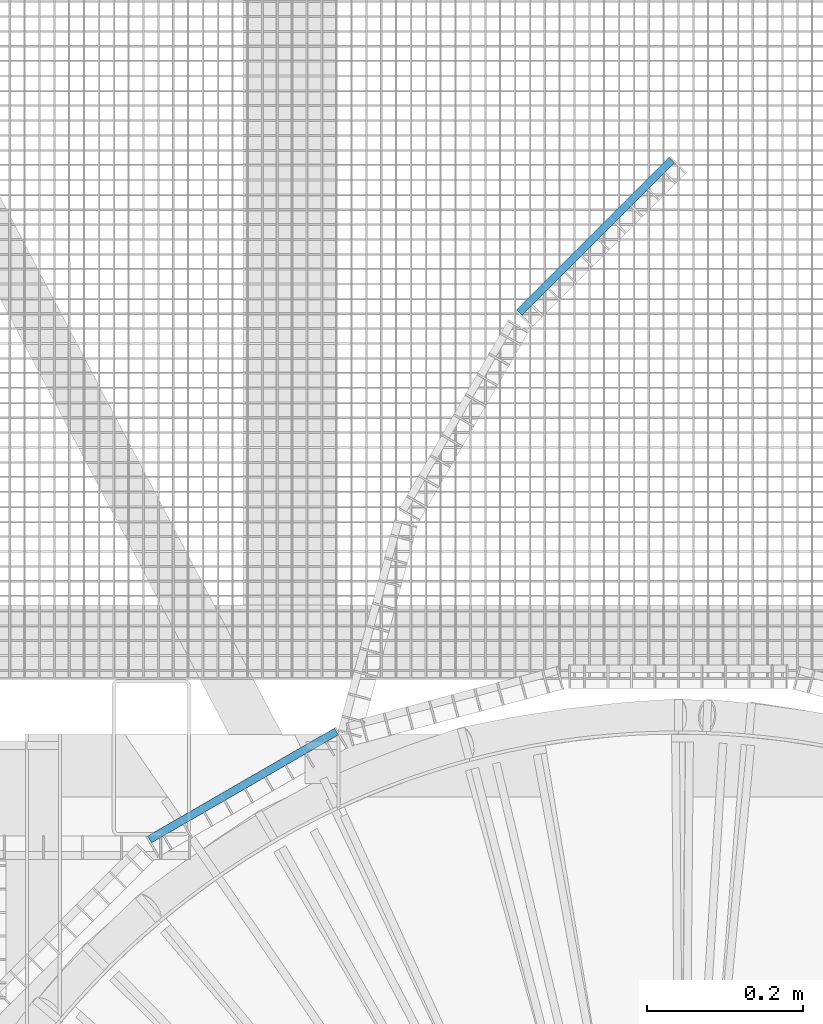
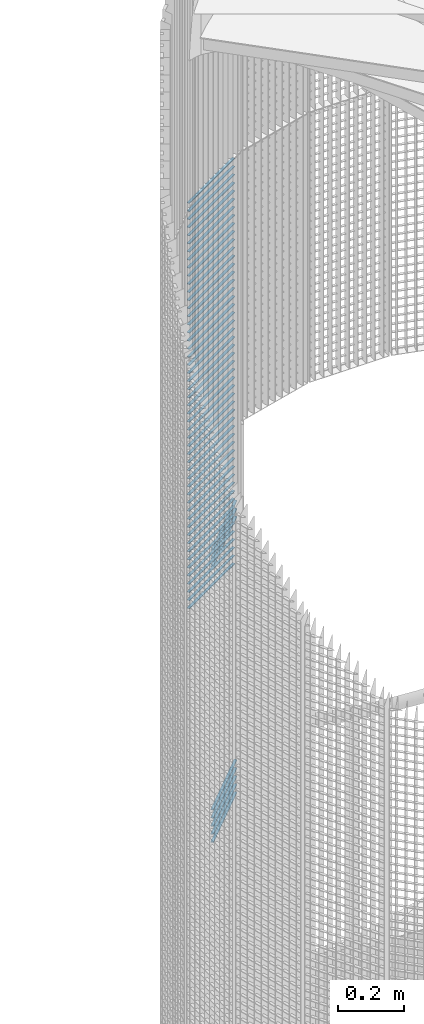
# One storey, part 311 of 1148: 59 beams, 2 elements without a shape of their own.
"""IFC2X3 building model written with IfcOpenShell, lengths in millimetres."""

from ifc_helpers import new_model, si_unit, frame, origin_with_axes, origin_2d_with_axis, place, context, subcontext, project, spatial, rectangle, extrude, material, type_object, element, aggregate, save


model = new_model("IFC2X3")

# Units and contexts
model_context = context("Model", 3, precision=1e-05, world=origin_with_axes())
body_context = subcontext(model_context, "Body", "Model", "MODEL_VIEW")
ifc_project = project(units=[si_unit("LENGTHUNIT", "METRE", prefix="MILLI"), si_unit("AREAUNIT", "SQUARE_METRE"), si_unit("VOLUMEUNIT", "CUBIC_METRE"), si_unit("MASSUNIT", "GRAM", prefix="KILO"), si_unit("TIMEUNIT", "SECOND"), si_unit("PLANEANGLEUNIT", "RADIAN"), si_unit("SOLIDANGLEUNIT", "STERADIAN"), si_unit("THERMODYNAMICTEMPERATUREUNIT", "DEGREE_CELSIUS"), si_unit("LUMINOUSINTENSITYUNIT", "LUMEN")], contexts=[model_context])

# Site, building, storey
site_placement = place(None, origin_with_axes())
site = spatial("IfcSite", under=ifc_project, at=site_placement, Name="Undefined", CompositionType="ELEMENT")
building_placement = place(site_placement, origin_with_axes())
building = spatial("IfcBuilding", under=site, at=building_placement, Name="Undefined", CompositionType="ELEMENT")
storey_placement = place(building_placement, origin_with_axes())
storey = spatial("IfcBuildingStorey", under=building, at=storey_placement, Name="Undefined", CompositionType="ELEMENT", Elevation=0.0)

# Assembly, beams
assembly_1_placement = place(storey_placement, origin_with_axes())
assembly_1 = element("IfcElementAssembly", 1, at=assembly_1_placement, inside=storey, Name="BORDURE", AssemblyPlace="NOTDEFINED", PredefinedType="NOTDEFINED")
ifc_material = material(Name="STEEL/S235JR")
beam_type = type_object("IfcBeamType", Name="PL2*10", PredefinedType="NOTDEFINED")
beam_1_placement = place(assembly_1_placement, frame((-8.49695219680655, 1764.20529939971, 1050.0), z_axis=(-0.707106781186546, 0.707106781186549, 0.0), x_axis=(-0.70710678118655, -0.707106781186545, 0.0)))
beam_1 = element("IfcBeam", 2, at=beam_1_placement, type_object=beam_type, material=ifc_material, Name="ENTRETOISE", context=body_context, shape_type="SweptSolid", body=[
    extrude(rectangle(XDim=2.0, YDim=10.0, at=origin_2d_with_axis()), frame((275.999999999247, 9.09494701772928e-13, 1.53210777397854e-14), z_axis=(-1.0, 0.0, 0.0), x_axis=(0.0, -1.0, 0.0)), (0.0, 0.0, 1.0), 276.0),
])
beam_2_placement = place(assembly_1_placement, frame((-8.49695219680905, 1764.20529939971, 149.999999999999), z_axis=(-0.707106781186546, 0.707106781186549, 0.0), x_axis=(-0.70710678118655, -0.707106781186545, 0.0)))
beam_2 = element("IfcBeam", 3, at=beam_2_placement, type_object=beam_type, material=ifc_material, Name="ENTRETOISE", context=body_context, shape_type="SweptSolid", body=[
    extrude(rectangle(XDim=2.0, YDim=10.0, at=origin_2d_with_axis()), frame((275.999999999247, 9.09494701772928e-13, 1.53210777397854e-14), z_axis=(-1.0, 0.0, 0.0), x_axis=(0.0, -1.0, 0.0)), (0.0, 0.0, 1.0), 276.0),
])
beam_3_placement = place(assembly_1_placement, frame((-8.49695219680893, 1764.20529939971, 119.999999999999), z_axis=(-0.707106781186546, 0.707106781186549, 0.0), x_axis=(-0.70710678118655, -0.707106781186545, 0.0)))
beam_3 = element("IfcBeam", 4, at=beam_3_placement, type_object=beam_type, material=ifc_material, Name="ENTRETOISE", context=body_context, shape_type="SweptSolid", body=[
    extrude(rectangle(XDim=2.0, YDim=10.0, at=origin_2d_with_axis()), frame((275.999999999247, 9.09494701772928e-13, 1.53210777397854e-14), z_axis=(-1.0, 0.0, 0.0), x_axis=(0.0, -1.0, 0.0)), (0.0, 0.0, 1.0), 276.0),
])
beam_4_placement = place(assembly_1_placement, frame((-8.49695219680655, 1764.20529939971, 1080.0), z_axis=(-0.707106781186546, 0.707106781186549, 0.0), x_axis=(-0.70710678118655, -0.707106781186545, 0.0)))
beam_4 = element("IfcBeam", 5, at=beam_4_placement, type_object=beam_type, material=ifc_material, Name="ENTRETOISE", context=body_context, shape_type="SweptSolid", body=[
    extrude(rectangle(XDim=2.0, YDim=10.0, at=origin_2d_with_axis()), frame((275.999999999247, 9.09494701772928e-13, 1.53210777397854e-14), z_axis=(-1.0, 0.0, 0.0), x_axis=(0.0, -1.0, 0.0)), (0.0, 0.0, 1.0), 276.0),
])
beam_5_placement = place(assembly_1_placement, frame((-8.49695219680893, 1764.20529939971, 89.9999999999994), z_axis=(-0.707106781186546, 0.707106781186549, 0.0), x_axis=(-0.70710678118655, -0.707106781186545, 0.0)))
beam_5 = element("IfcBeam", 6, at=beam_5_placement, type_object=beam_type, material=ifc_material, Name="ENTRETOISE", context=body_context, shape_type="SweptSolid", body=[
    extrude(rectangle(XDim=2.0, YDim=10.0, at=origin_2d_with_axis()), frame((275.999999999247, 9.09494701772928e-13, 1.53210777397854e-14), z_axis=(-1.0, 0.0, 0.0), x_axis=(0.0, -1.0, 0.0)), (0.0, 0.0, 1.0), 276.0),
])
beam_6_placement = place(assembly_1_placement, frame((-8.49695219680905, 1764.2052993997, 59.9999999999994), z_axis=(-0.707106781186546, 0.707106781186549, 0.0), x_axis=(-0.70710678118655, -0.707106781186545, 0.0)))
beam_6 = element("IfcBeam", 7, at=beam_6_placement, type_object=beam_type, material=ifc_material, Name="ENTRETOISE", context=body_context, shape_type="SweptSolid", body=[
    extrude(rectangle(XDim=2.0, YDim=10.0, at=origin_2d_with_axis()), frame((275.999999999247, 9.09494701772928e-13, 1.53210777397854e-14), z_axis=(-1.0, 0.0, 0.0), x_axis=(0.0, -1.0, 0.0)), (0.0, 0.0, 1.0), 276.0),
])
beam_7_placement = place(assembly_1_placement, frame((-8.49695219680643, 1764.20529939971, 1110.0), z_axis=(-0.707106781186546, 0.707106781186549, 0.0), x_axis=(-0.70710678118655, -0.707106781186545, 0.0)))
beam_7 = element("IfcBeam", 8, at=beam_7_placement, type_object=beam_type, material=ifc_material, Name="ENTRETOISE", context=body_context, shape_type="SweptSolid", body=[
    extrude(rectangle(XDim=2.0, YDim=10.0, at=origin_2d_with_axis()), frame((275.999999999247, 9.09494701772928e-13, 1.53210777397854e-14), z_axis=(-1.0, 0.0, 0.0), x_axis=(0.0, -1.0, 0.0)), (0.0, 0.0, 1.0), 276.0),
])
beam_8_placement = place(assembly_1_placement, frame((-8.49695219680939, 1764.2052993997, 29.9999999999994), z_axis=(-0.707106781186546, 0.707106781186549, 0.0), x_axis=(-0.70710678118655, -0.707106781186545, 0.0)))
beam_8 = element("IfcBeam", 9, at=beam_8_placement, type_object=beam_type, material=ifc_material, Name="ENTRETOISE", context=body_context, shape_type="SweptSolid", body=[
    extrude(rectangle(XDim=2.0, YDim=10.0, at=origin_2d_with_axis()), frame((275.999999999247, 9.09494701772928e-13, 1.53210777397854e-14), z_axis=(-1.0, 0.0, 0.0), x_axis=(0.0, -1.0, 0.0)), (0.0, 0.0, 1.0), 276.0),
])
aggregate(assembly_1, [beam_1, beam_2, beam_3, beam_4, beam_5, beam_6, beam_7, beam_8])

assembly_2_placement = place(storey_placement, origin_with_axes())
assembly_2 = element("IfcElementAssembly", 10, at=assembly_2_placement, inside=storey, Name="BORDURE", AssemblyPlace="NOTDEFINED", PredefinedType="NOTDEFINED")
beam_9_placement = place(assembly_2_placement, frame((-437.231955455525, 1033.29996828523, 2970.0), z_axis=(-0.49999999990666, 0.866025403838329, 0.0), x_axis=(-0.866025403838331, -0.499999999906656, 0.0)))
beam_9 = element("IfcBeam", 11, at=beam_9_placement, type_object=beam_type, material=ifc_material, Name="ENTRETOISE", context=body_context, shape_type="SweptSolid", body=[
    extrude(rectangle(XDim=2.0, YDim=10.0, at=origin_2d_with_axis()), frame((275.999999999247, 9.09494701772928e-13, 1.53210777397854e-14), z_axis=(-1.0, 0.0, 0.0), x_axis=(0.0, -1.0, 0.0)), (0.0, 0.0, 1.0), 276.0),
])
beam_10_placement = place(assembly_2_placement, frame((-437.231955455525, 1033.29996828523, 2940.0), z_axis=(-0.49999999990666, 0.866025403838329, 0.0), x_axis=(-0.866025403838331, -0.499999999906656, 0.0)))
beam_10 = element("IfcBeam", 12, at=beam_10_placement, type_object=beam_type, material=ifc_material, Name="ENTRETOISE", context=body_context, shape_type="SweptSolid", body=[
    extrude(rectangle(XDim=2.0, YDim=10.0, at=origin_2d_with_axis()), frame((275.999999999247, 9.09494701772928e-13, 1.53210777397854e-14), z_axis=(-1.0, 0.0, 0.0), x_axis=(0.0, -1.0, 0.0)), (0.0, 0.0, 1.0), 276.0),
])
beam_11_placement = place(assembly_2_placement, frame((-437.231955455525, 1033.29996828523, 2910.0), z_axis=(-0.49999999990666, 0.866025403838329, 0.0), x_axis=(-0.866025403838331, -0.499999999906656, 0.0)))
beam_11 = element("IfcBeam", 13, at=beam_11_placement, type_object=beam_type, material=ifc_material, Name="ENTRETOISE", context=body_context, shape_type="SweptSolid", body=[
    extrude(rectangle(XDim=2.0, YDim=10.0, at=origin_2d_with_axis()), frame((275.999999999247, 9.09494701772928e-13, 1.53210777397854e-14), z_axis=(-1.0, 0.0, 0.0), x_axis=(0.0, -1.0, 0.0)), (0.0, 0.0, 1.0), 276.0),
])
beam_12_placement = place(assembly_2_placement, frame((-437.231955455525, 1033.29996828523, 2880.0), z_axis=(-0.49999999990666, 0.866025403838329, 0.0), x_axis=(-0.866025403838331, -0.499999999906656, 0.0)))
beam_12 = element("IfcBeam", 14, at=beam_12_placement, type_object=beam_type, material=ifc_material, Name="ENTRETOISE", context=body_context, shape_type="SweptSolid", body=[
    extrude(rectangle(XDim=2.0, YDim=10.0, at=origin_2d_with_axis()), frame((275.999999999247, 9.09494701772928e-13, 1.53210777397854e-14), z_axis=(-1.0, 0.0, 0.0), x_axis=(0.0, -1.0, 0.0)), (0.0, 0.0, 1.0), 276.0),
])
beam_13_placement = place(assembly_2_placement, frame((-437.231955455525, 1033.29996828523, 2850.0), z_axis=(-0.49999999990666, 0.866025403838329, 0.0), x_axis=(-0.866025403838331, -0.499999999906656, 0.0)))
beam_13 = element("IfcBeam", 15, at=beam_13_placement, type_object=beam_type, material=ifc_material, Name="ENTRETOISE", context=body_context, shape_type="SweptSolid", body=[
    extrude(rectangle(XDim=2.0, YDim=10.0, at=origin_2d_with_axis()), frame((275.999999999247, 9.09494701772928e-13, 1.53210777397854e-14), z_axis=(-1.0, 0.0, 0.0), x_axis=(0.0, -1.0, 0.0)), (0.0, 0.0, 1.0), 276.0),
])
beam_14_placement = place(assembly_2_placement, frame((-437.231955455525, 1033.29996828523, 2820.0), z_axis=(-0.49999999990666, 0.866025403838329, 0.0), x_axis=(-0.866025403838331, -0.499999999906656, 0.0)))
beam_14 = element("IfcBeam", 16, at=beam_14_placement, type_object=beam_type, material=ifc_material, Name="ENTRETOISE", context=body_context, shape_type="SweptSolid", body=[
    extrude(rectangle(XDim=2.0, YDim=10.0, at=origin_2d_with_axis()), frame((275.999999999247, 9.09494701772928e-13, 1.53210777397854e-14), z_axis=(-1.0, 0.0, 0.0), x_axis=(0.0, -1.0, 0.0)), (0.0, 0.0, 1.0), 276.0),
])
beam_15_placement = place(assembly_2_placement, frame((-437.231955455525, 1033.29996828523, 2790.0), z_axis=(-0.49999999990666, 0.866025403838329, 0.0), x_axis=(-0.866025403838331, -0.499999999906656, 0.0)))
beam_15 = element("IfcBeam", 17, at=beam_15_placement, type_object=beam_type, material=ifc_material, Name="ENTRETOISE", context=body_context, shape_type="SweptSolid", body=[
    extrude(rectangle(XDim=2.0, YDim=10.0, at=origin_2d_with_axis()), frame((275.999999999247, 9.09494701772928e-13, 1.53210777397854e-14), z_axis=(-1.0, 0.0, 0.0), x_axis=(0.0, -1.0, 0.0)), (0.0, 0.0, 1.0), 276.0),
])
beam_16_placement = place(assembly_2_placement, frame((-437.231955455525, 1033.29996828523, 2760.0), z_axis=(-0.49999999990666, 0.866025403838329, 0.0), x_axis=(-0.866025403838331, -0.499999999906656, 0.0)))
beam_16 = element("IfcBeam", 18, at=beam_16_placement, type_object=beam_type, material=ifc_material, Name="ENTRETOISE", context=body_context, shape_type="SweptSolid", body=[
    extrude(rectangle(XDim=2.0, YDim=10.0, at=origin_2d_with_axis()), frame((275.999999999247, 9.09494701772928e-13, 1.53210777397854e-14), z_axis=(-1.0, 0.0, 0.0), x_axis=(0.0, -1.0, 0.0)), (0.0, 0.0, 1.0), 276.0),
])
beam_17_placement = place(assembly_2_placement, frame((-437.231955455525, 1033.29996828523, 2730.0), z_axis=(-0.49999999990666, 0.866025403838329, 0.0), x_axis=(-0.866025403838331, -0.499999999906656, 0.0)))
beam_17 = element("IfcBeam", 19, at=beam_17_placement, type_object=beam_type, material=ifc_material, Name="ENTRETOISE", context=body_context, shape_type="SweptSolid", body=[
    extrude(rectangle(XDim=2.0, YDim=10.0, at=origin_2d_with_axis()), frame((275.999999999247, 9.09494701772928e-13, 1.53210777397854e-14), z_axis=(-1.0, 0.0, 0.0), x_axis=(0.0, -1.0, 0.0)), (0.0, 0.0, 1.0), 276.0),
])
beam_18_placement = place(assembly_2_placement, frame((-437.231955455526, 1033.29996828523, 2700.0), z_axis=(-0.49999999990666, 0.866025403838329, 0.0), x_axis=(-0.866025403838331, -0.499999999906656, 0.0)))
beam_18 = element("IfcBeam", 20, at=beam_18_placement, type_object=beam_type, material=ifc_material, Name="ENTRETOISE", context=body_context, shape_type="SweptSolid", body=[
    extrude(rectangle(XDim=2.0, YDim=10.0, at=origin_2d_with_axis()), frame((275.999999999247, 9.09494701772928e-13, 1.53210777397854e-14), z_axis=(-1.0, 0.0, 0.0), x_axis=(0.0, -1.0, 0.0)), (0.0, 0.0, 1.0), 276.0),
])
beam_19_placement = place(assembly_2_placement, frame((-437.231955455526, 1033.29996828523, 2670.0), z_axis=(-0.49999999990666, 0.866025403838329, 0.0), x_axis=(-0.866025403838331, -0.499999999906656, 0.0)))
beam_19 = element("IfcBeam", 21, at=beam_19_placement, type_object=beam_type, material=ifc_material, Name="ENTRETOISE", context=body_context, shape_type="SweptSolid", body=[
    extrude(rectangle(XDim=2.0, YDim=10.0, at=origin_2d_with_axis()), frame((275.999999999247, 9.09494701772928e-13, 1.53210777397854e-14), z_axis=(-1.0, 0.0, 0.0), x_axis=(0.0, -1.0, 0.0)), (0.0, 0.0, 1.0), 276.0),
])
beam_20_placement = place(assembly_2_placement, frame((-437.231955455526, 1033.29996828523, 2640.0), z_axis=(-0.49999999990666, 0.866025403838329, 0.0), x_axis=(-0.866025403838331, -0.499999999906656, 0.0)))
beam_20 = element("IfcBeam", 22, at=beam_20_placement, type_object=beam_type, material=ifc_material, Name="ENTRETOISE", context=body_context, shape_type="SweptSolid", body=[
    extrude(rectangle(XDim=2.0, YDim=10.0, at=origin_2d_with_axis()), frame((275.999999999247, 9.09494701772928e-13, 1.53210777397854e-14), z_axis=(-1.0, 0.0, 0.0), x_axis=(0.0, -1.0, 0.0)), (0.0, 0.0, 1.0), 276.0),
])
beam_21_placement = place(assembly_2_placement, frame((-437.231955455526, 1033.29996828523, 2610.0), z_axis=(-0.49999999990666, 0.866025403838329, 0.0), x_axis=(-0.866025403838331, -0.499999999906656, 0.0)))
beam_21 = element("IfcBeam", 23, at=beam_21_placement, type_object=beam_type, material=ifc_material, Name="ENTRETOISE", context=body_context, shape_type="SweptSolid", body=[
    extrude(rectangle(XDim=2.0, YDim=10.0, at=origin_2d_with_axis()), frame((275.999999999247, 9.09494701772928e-13, 1.53210777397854e-14), z_axis=(-1.0, 0.0, 0.0), x_axis=(0.0, -1.0, 0.0)), (0.0, 0.0, 1.0), 276.0),
])
beam_22_placement = place(assembly_2_placement, frame((-437.231955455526, 1033.29996828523, 2580.0), z_axis=(-0.49999999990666, 0.866025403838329, 0.0), x_axis=(-0.866025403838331, -0.499999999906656, 0.0)))
beam_22 = element("IfcBeam", 24, at=beam_22_placement, type_object=beam_type, material=ifc_material, Name="ENTRETOISE", context=body_context, shape_type="SweptSolid", body=[
    extrude(rectangle(XDim=2.0, YDim=10.0, at=origin_2d_with_axis()), frame((275.999999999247, 9.09494701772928e-13, 1.53210777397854e-14), z_axis=(-1.0, 0.0, 0.0), x_axis=(0.0, -1.0, 0.0)), (0.0, 0.0, 1.0), 276.0),
])
beam_23_placement = place(assembly_2_placement, frame((-437.231955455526, 1033.29996828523, 2550.0), z_axis=(-0.49999999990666, 0.866025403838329, 0.0), x_axis=(-0.866025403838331, -0.499999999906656, 0.0)))
beam_23 = element("IfcBeam", 25, at=beam_23_placement, type_object=beam_type, material=ifc_material, Name="ENTRETOISE", context=body_context, shape_type="SweptSolid", body=[
    extrude(rectangle(XDim=2.0, YDim=10.0, at=origin_2d_with_axis()), frame((275.999999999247, 9.09494701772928e-13, 1.53210777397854e-14), z_axis=(-1.0, 0.0, 0.0), x_axis=(0.0, -1.0, 0.0)), (0.0, 0.0, 1.0), 276.0),
])
beam_24_placement = place(assembly_2_placement, frame((-437.231955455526, 1033.29996828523, 2520.0), z_axis=(-0.49999999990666, 0.866025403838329, 0.0), x_axis=(-0.866025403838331, -0.499999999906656, 0.0)))
beam_24 = element("IfcBeam", 26, at=beam_24_placement, type_object=beam_type, material=ifc_material, Name="ENTRETOISE", context=body_context, shape_type="SweptSolid", body=[
    extrude(rectangle(XDim=2.0, YDim=10.0, at=origin_2d_with_axis()), frame((275.999999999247, 9.09494701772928e-13, 1.53210777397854e-14), z_axis=(-1.0, 0.0, 0.0), x_axis=(0.0, -1.0, 0.0)), (0.0, 0.0, 1.0), 276.0),
])
beam_25_placement = place(assembly_2_placement, frame((-437.231955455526, 1033.29996828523, 2490.0), z_axis=(-0.49999999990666, 0.866025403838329, 0.0), x_axis=(-0.866025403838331, -0.499999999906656, 0.0)))
beam_25 = element("IfcBeam", 27, at=beam_25_placement, type_object=beam_type, material=ifc_material, Name="ENTRETOISE", context=body_context, shape_type="SweptSolid", body=[
    extrude(rectangle(XDim=2.0, YDim=10.0, at=origin_2d_with_axis()), frame((275.999999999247, 9.09494701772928e-13, 1.53210777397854e-14), z_axis=(-1.0, 0.0, 0.0), x_axis=(0.0, -1.0, 0.0)), (0.0, 0.0, 1.0), 276.0),
])
beam_26_placement = place(assembly_2_placement, frame((-437.231955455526, 1033.29996828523, 2460.0), z_axis=(-0.49999999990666, 0.866025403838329, 0.0), x_axis=(-0.866025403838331, -0.499999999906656, 0.0)))
beam_26 = element("IfcBeam", 28, at=beam_26_placement, type_object=beam_type, material=ifc_material, Name="ENTRETOISE", context=body_context, shape_type="SweptSolid", body=[
    extrude(rectangle(XDim=2.0, YDim=10.0, at=origin_2d_with_axis()), frame((275.999999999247, 9.09494701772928e-13, 1.53210777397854e-14), z_axis=(-1.0, 0.0, 0.0), x_axis=(0.0, -1.0, 0.0)), (0.0, 0.0, 1.0), 276.0),
])
beam_27_placement = place(assembly_2_placement, frame((-437.231955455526, 1033.29996828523, 2430.0), z_axis=(-0.49999999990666, 0.866025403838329, 0.0), x_axis=(-0.866025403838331, -0.499999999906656, 0.0)))
beam_27 = element("IfcBeam", 29, at=beam_27_placement, type_object=beam_type, material=ifc_material, Name="ENTRETOISE", context=body_context, shape_type="SweptSolid", body=[
    extrude(rectangle(XDim=2.0, YDim=10.0, at=origin_2d_with_axis()), frame((275.999999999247, 9.09494701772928e-13, 1.53210777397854e-14), z_axis=(-1.0, 0.0, 0.0), x_axis=(0.0, -1.0, 0.0)), (0.0, 0.0, 1.0), 276.0),
])
beam_28_placement = place(assembly_2_placement, frame((-437.231955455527, 1033.29996828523, 2400.0), z_axis=(-0.49999999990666, 0.866025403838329, 0.0), x_axis=(-0.866025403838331, -0.499999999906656, 0.0)))
beam_28 = element("IfcBeam", 30, at=beam_28_placement, type_object=beam_type, material=ifc_material, Name="ENTRETOISE", context=body_context, shape_type="SweptSolid", body=[
    extrude(rectangle(XDim=2.0, YDim=10.0, at=origin_2d_with_axis()), frame((275.999999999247, 9.09494701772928e-13, 1.53210777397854e-14), z_axis=(-1.0, 0.0, 0.0), x_axis=(0.0, -1.0, 0.0)), (0.0, 0.0, 1.0), 276.0),
])
beam_29_placement = place(assembly_2_placement, frame((-437.231955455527, 1033.29996828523, 2370.0), z_axis=(-0.49999999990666, 0.866025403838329, 0.0), x_axis=(-0.866025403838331, -0.499999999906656, 0.0)))
beam_29 = element("IfcBeam", 31, at=beam_29_placement, type_object=beam_type, material=ifc_material, Name="ENTRETOISE", context=body_context, shape_type="SweptSolid", body=[
    extrude(rectangle(XDim=2.0, YDim=10.0, at=origin_2d_with_axis()), frame((275.999999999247, 9.09494701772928e-13, 1.53210777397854e-14), z_axis=(-1.0, 0.0, 0.0), x_axis=(0.0, -1.0, 0.0)), (0.0, 0.0, 1.0), 276.0),
])
beam_30_placement = place(assembly_2_placement, frame((-437.231955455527, 1033.29996828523, 2340.0), z_axis=(-0.49999999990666, 0.866025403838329, 0.0), x_axis=(-0.866025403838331, -0.499999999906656, 0.0)))
beam_30 = element("IfcBeam", 32, at=beam_30_placement, type_object=beam_type, material=ifc_material, Name="ENTRETOISE", context=body_context, shape_type="SweptSolid", body=[
    extrude(rectangle(XDim=2.0, YDim=10.0, at=origin_2d_with_axis()), frame((275.999999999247, 9.09494701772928e-13, 1.53210777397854e-14), z_axis=(-1.0, 0.0, 0.0), x_axis=(0.0, -1.0, 0.0)), (0.0, 0.0, 1.0), 276.0),
])
beam_31_placement = place(assembly_2_placement, frame((-437.231955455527, 1033.29996828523, 2310.0), z_axis=(-0.49999999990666, 0.866025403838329, 0.0), x_axis=(-0.866025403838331, -0.499999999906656, 0.0)))
beam_31 = element("IfcBeam", 33, at=beam_31_placement, type_object=beam_type, material=ifc_material, Name="ENTRETOISE", context=body_context, shape_type="SweptSolid", body=[
    extrude(rectangle(XDim=2.0, YDim=10.0, at=origin_2d_with_axis()), frame((275.999999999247, 9.09494701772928e-13, 1.53210777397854e-14), z_axis=(-1.0, 0.0, 0.0), x_axis=(0.0, -1.0, 0.0)), (0.0, 0.0, 1.0), 276.0),
])
beam_32_placement = place(assembly_2_placement, frame((-437.231955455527, 1033.29996828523, 2280.0), z_axis=(-0.49999999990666, 0.866025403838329, 0.0), x_axis=(-0.866025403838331, -0.499999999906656, 0.0)))
beam_32 = element("IfcBeam", 34, at=beam_32_placement, type_object=beam_type, material=ifc_material, Name="ENTRETOISE", context=body_context, shape_type="SweptSolid", body=[
    extrude(rectangle(XDim=2.0, YDim=10.0, at=origin_2d_with_axis()), frame((275.999999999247, 9.09494701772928e-13, 1.53210777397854e-14), z_axis=(-1.0, 0.0, 0.0), x_axis=(0.0, -1.0, 0.0)), (0.0, 0.0, 1.0), 276.0),
])
beam_33_placement = place(assembly_2_placement, frame((-437.231955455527, 1033.29996828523, 2250.0), z_axis=(-0.49999999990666, 0.866025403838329, 0.0), x_axis=(-0.866025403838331, -0.499999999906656, 0.0)))
beam_33 = element("IfcBeam", 35, at=beam_33_placement, type_object=beam_type, material=ifc_material, Name="ENTRETOISE", context=body_context, shape_type="SweptSolid", body=[
    extrude(rectangle(XDim=2.0, YDim=10.0, at=origin_2d_with_axis()), frame((275.999999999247, 9.09494701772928e-13, 1.53210777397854e-14), z_axis=(-1.0, 0.0, 0.0), x_axis=(0.0, -1.0, 0.0)), (0.0, 0.0, 1.0), 276.0),
])
beam_34_placement = place(assembly_2_placement, frame((-437.231955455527, 1033.29996828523, 2220.0), z_axis=(-0.49999999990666, 0.866025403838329, 0.0), x_axis=(-0.866025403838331, -0.499999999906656, 0.0)))
beam_34 = element("IfcBeam", 36, at=beam_34_placement, type_object=beam_type, material=ifc_material, Name="ENTRETOISE", context=body_context, shape_type="SweptSolid", body=[
    extrude(rectangle(XDim=2.0, YDim=10.0, at=origin_2d_with_axis()), frame((275.999999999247, 9.09494701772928e-13, 1.53210777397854e-14), z_axis=(-1.0, 0.0, 0.0), x_axis=(0.0, -1.0, 0.0)), (0.0, 0.0, 1.0), 276.0),
])
beam_35_placement = place(assembly_2_placement, frame((-437.231955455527, 1033.29996828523, 2190.0), z_axis=(-0.49999999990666, 0.866025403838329, 0.0), x_axis=(-0.866025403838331, -0.499999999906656, 0.0)))
beam_35 = element("IfcBeam", 37, at=beam_35_placement, type_object=beam_type, material=ifc_material, Name="ENTRETOISE", context=body_context, shape_type="SweptSolid", body=[
    extrude(rectangle(XDim=2.0, YDim=10.0, at=origin_2d_with_axis()), frame((275.999999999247, 9.09494701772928e-13, 1.53210777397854e-14), z_axis=(-1.0, 0.0, 0.0), x_axis=(0.0, -1.0, 0.0)), (0.0, 0.0, 1.0), 276.0),
])
beam_36_placement = place(assembly_2_placement, frame((-437.231955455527, 1033.29996828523, 2160.0), z_axis=(-0.49999999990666, 0.866025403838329, 0.0), x_axis=(-0.866025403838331, -0.499999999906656, 0.0)))
beam_36 = element("IfcBeam", 38, at=beam_36_placement, type_object=beam_type, material=ifc_material, Name="ENTRETOISE", context=body_context, shape_type="SweptSolid", body=[
    extrude(rectangle(XDim=2.0, YDim=10.0, at=origin_2d_with_axis()), frame((275.999999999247, 9.09494701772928e-13, 1.53210777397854e-14), z_axis=(-1.0, 0.0, 0.0), x_axis=(0.0, -1.0, 0.0)), (0.0, 0.0, 1.0), 276.0),
])
beam_37_placement = place(assembly_2_placement, frame((-437.231955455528, 1033.29996828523, 2130.0), z_axis=(-0.49999999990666, 0.866025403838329, 0.0), x_axis=(-0.866025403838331, -0.499999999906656, 0.0)))
beam_37 = element("IfcBeam", 39, at=beam_37_placement, type_object=beam_type, material=ifc_material, Name="ENTRETOISE", context=body_context, shape_type="SweptSolid", body=[
    extrude(rectangle(XDim=2.0, YDim=10.0, at=origin_2d_with_axis()), frame((275.999999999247, 9.09494701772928e-13, 1.53210777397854e-14), z_axis=(-1.0, 0.0, 0.0), x_axis=(0.0, -1.0, 0.0)), (0.0, 0.0, 1.0), 276.0),
])
beam_38_placement = place(assembly_2_placement, frame((-437.231955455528, 1033.29996828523, 2100.0), z_axis=(-0.49999999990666, 0.866025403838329, 0.0), x_axis=(-0.866025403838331, -0.499999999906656, 0.0)))
beam_38 = element("IfcBeam", 40, at=beam_38_placement, type_object=beam_type, material=ifc_material, Name="ENTRETOISE", context=body_context, shape_type="SweptSolid", body=[
    extrude(rectangle(XDim=2.0, YDim=10.0, at=origin_2d_with_axis()), frame((275.999999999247, 9.09494701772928e-13, 1.53210777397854e-14), z_axis=(-1.0, 0.0, 0.0), x_axis=(0.0, -1.0, 0.0)), (0.0, 0.0, 1.0), 276.0),
])
beam_39_placement = place(assembly_2_placement, frame((-437.231955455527, 1033.29996828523, 2070.0), z_axis=(-0.49999999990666, 0.866025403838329, 0.0), x_axis=(-0.866025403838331, -0.499999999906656, 0.0)))
beam_39 = element("IfcBeam", 41, at=beam_39_placement, type_object=beam_type, material=ifc_material, Name="ENTRETOISE", context=body_context, shape_type="SweptSolid", body=[
    extrude(rectangle(XDim=2.0, YDim=10.0, at=origin_2d_with_axis()), frame((275.999999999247, 9.09494701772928e-13, 1.53210777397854e-14), z_axis=(-1.0, 0.0, 0.0), x_axis=(0.0, -1.0, 0.0)), (0.0, 0.0, 1.0), 276.0),
])
beam_40_placement = place(assembly_2_placement, frame((-437.231955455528, 1033.29996828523, 2040.0), z_axis=(-0.49999999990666, 0.866025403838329, 0.0), x_axis=(-0.866025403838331, -0.499999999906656, 0.0)))
beam_40 = element("IfcBeam", 42, at=beam_40_placement, type_object=beam_type, material=ifc_material, Name="ENTRETOISE", context=body_context, shape_type="SweptSolid", body=[
    extrude(rectangle(XDim=2.0, YDim=10.0, at=origin_2d_with_axis()), frame((275.999999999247, 9.09494701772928e-13, 1.53210777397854e-14), z_axis=(-1.0, 0.0, 0.0), x_axis=(0.0, -1.0, 0.0)), (0.0, 0.0, 1.0), 276.0),
])
beam_41_placement = place(assembly_2_placement, frame((-437.231955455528, 1033.29996828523, 2010.0), z_axis=(-0.49999999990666, 0.866025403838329, 0.0), x_axis=(-0.866025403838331, -0.499999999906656, 0.0)))
beam_41 = element("IfcBeam", 43, at=beam_41_placement, type_object=beam_type, material=ifc_material, Name="ENTRETOISE", context=body_context, shape_type="SweptSolid", body=[
    extrude(rectangle(XDim=2.0, YDim=10.0, at=origin_2d_with_axis()), frame((275.999999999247, 9.09494701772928e-13, 1.53210777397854e-14), z_axis=(-1.0, 0.0, 0.0), x_axis=(0.0, -1.0, 0.0)), (0.0, 0.0, 1.0), 276.0),
])
beam_42_placement = place(assembly_2_placement, frame((-437.231955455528, 1033.29996828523, 1980.0), z_axis=(-0.49999999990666, 0.866025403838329, 0.0), x_axis=(-0.866025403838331, -0.499999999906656, 0.0)))
beam_42 = element("IfcBeam", 44, at=beam_42_placement, type_object=beam_type, material=ifc_material, Name="ENTRETOISE", context=body_context, shape_type="SweptSolid", body=[
    extrude(rectangle(XDim=2.0, YDim=10.0, at=origin_2d_with_axis()), frame((275.999999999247, 9.09494701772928e-13, 1.53210777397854e-14), z_axis=(-1.0, 0.0, 0.0), x_axis=(0.0, -1.0, 0.0)), (0.0, 0.0, 1.0), 276.0),
])
beam_43_placement = place(assembly_2_placement, frame((-437.231955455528, 1033.29996828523, 1950.0), z_axis=(-0.49999999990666, 0.866025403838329, 0.0), x_axis=(-0.866025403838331, -0.499999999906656, 0.0)))
beam_43 = element("IfcBeam", 45, at=beam_43_placement, type_object=beam_type, material=ifc_material, Name="ENTRETOISE", context=body_context, shape_type="SweptSolid", body=[
    extrude(rectangle(XDim=2.0, YDim=10.0, at=origin_2d_with_axis()), frame((275.999999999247, 9.09494701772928e-13, 1.53210777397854e-14), z_axis=(-1.0, 0.0, 0.0), x_axis=(0.0, -1.0, 0.0)), (0.0, 0.0, 1.0), 276.0),
])
beam_44_placement = place(assembly_2_placement, frame((-437.231955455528, 1033.29996828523, 1920.0), z_axis=(-0.49999999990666, 0.866025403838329, 0.0), x_axis=(-0.866025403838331, -0.499999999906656, 0.0)))
beam_44 = element("IfcBeam", 46, at=beam_44_placement, type_object=beam_type, material=ifc_material, Name="ENTRETOISE", context=body_context, shape_type="SweptSolid", body=[
    extrude(rectangle(XDim=2.0, YDim=10.0, at=origin_2d_with_axis()), frame((275.999999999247, 9.09494701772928e-13, 1.53210777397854e-14), z_axis=(-1.0, 0.0, 0.0), x_axis=(0.0, -1.0, 0.0)), (0.0, 0.0, 1.0), 276.0),
])
beam_45_placement = place(assembly_2_placement, frame((-437.231955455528, 1033.29996828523, 1890.0), z_axis=(-0.49999999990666, 0.866025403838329, 0.0), x_axis=(-0.866025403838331, -0.499999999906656, 0.0)))
beam_45 = element("IfcBeam", 47, at=beam_45_placement, type_object=beam_type, material=ifc_material, Name="ENTRETOISE", context=body_context, shape_type="SweptSolid", body=[
    extrude(rectangle(XDim=2.0, YDim=10.0, at=origin_2d_with_axis()), frame((275.999999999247, 9.09494701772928e-13, 1.53210777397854e-14), z_axis=(-1.0, 0.0, 0.0), x_axis=(0.0, -1.0, 0.0)), (0.0, 0.0, 1.0), 276.0),
])
beam_46_placement = place(assembly_2_placement, frame((-437.231955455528, 1033.29996828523, 1860.0), z_axis=(-0.49999999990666, 0.866025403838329, 0.0), x_axis=(-0.866025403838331, -0.499999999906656, 0.0)))
beam_46 = element("IfcBeam", 48, at=beam_46_placement, type_object=beam_type, material=ifc_material, Name="ENTRETOISE", context=body_context, shape_type="SweptSolid", body=[
    extrude(rectangle(XDim=2.0, YDim=10.0, at=origin_2d_with_axis()), frame((275.999999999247, 9.09494701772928e-13, 1.53210777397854e-14), z_axis=(-1.0, 0.0, 0.0), x_axis=(0.0, -1.0, 0.0)), (0.0, 0.0, 1.0), 276.0),
])
beam_47_placement = place(assembly_2_placement, frame((-437.231955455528, 1033.29996828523, 1830.0), z_axis=(-0.49999999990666, 0.866025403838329, 0.0), x_axis=(-0.866025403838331, -0.499999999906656, 0.0)))
beam_47 = element("IfcBeam", 49, at=beam_47_placement, type_object=beam_type, material=ifc_material, Name="ENTRETOISE", context=body_context, shape_type="SweptSolid", body=[
    extrude(rectangle(XDim=2.0, YDim=10.0, at=origin_2d_with_axis()), frame((275.999999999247, 9.09494701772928e-13, 1.53210777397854e-14), z_axis=(-1.0, 0.0, 0.0), x_axis=(0.0, -1.0, 0.0)), (0.0, 0.0, 1.0), 276.0),
])
beam_48_placement = place(assembly_2_placement, frame((-437.231955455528, 1033.29996828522, 1800.0), z_axis=(-0.49999999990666, 0.866025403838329, 0.0), x_axis=(-0.866025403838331, -0.499999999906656, 0.0)))
beam_48 = element("IfcBeam", 50, at=beam_48_placement, type_object=beam_type, material=ifc_material, Name="ENTRETOISE", context=body_context, shape_type="SweptSolid", body=[
    extrude(rectangle(XDim=2.0, YDim=10.0, at=origin_2d_with_axis()), frame((275.999999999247, 9.09494701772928e-13, 1.53210777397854e-14), z_axis=(-1.0, 0.0, 0.0), x_axis=(0.0, -1.0, 0.0)), (0.0, 0.0, 1.0), 276.0),
])
beam_49_placement = place(assembly_2_placement, frame((-437.231955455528, 1033.29996828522, 1770.0), z_axis=(-0.49999999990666, 0.866025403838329, 0.0), x_axis=(-0.866025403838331, -0.499999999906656, 0.0)))
beam_49 = element("IfcBeam", 51, at=beam_49_placement, type_object=beam_type, material=ifc_material, Name="ENTRETOISE", context=body_context, shape_type="SweptSolid", body=[
    extrude(rectangle(XDim=2.0, YDim=10.0, at=origin_2d_with_axis()), frame((275.999999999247, 9.09494701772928e-13, 1.53210777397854e-14), z_axis=(-1.0, 0.0, 0.0), x_axis=(0.0, -1.0, 0.0)), (0.0, 0.0, 1.0), 276.0),
])
beam_50_placement = place(assembly_2_placement, frame((-437.231955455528, 1033.29996828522, 1740.0), z_axis=(-0.49999999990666, 0.866025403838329, 0.0), x_axis=(-0.866025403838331, -0.499999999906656, 0.0)))
beam_50 = element("IfcBeam", 52, at=beam_50_placement, type_object=beam_type, material=ifc_material, Name="ENTRETOISE", context=body_context, shape_type="SweptSolid", body=[
    extrude(rectangle(XDim=2.0, YDim=10.0, at=origin_2d_with_axis()), frame((275.999999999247, 9.09494701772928e-13, 1.53210777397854e-14), z_axis=(-1.0, 0.0, 0.0), x_axis=(0.0, -1.0, 0.0)), (0.0, 0.0, 1.0), 276.0),
])
beam_51_placement = place(assembly_2_placement, frame((-437.231955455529, 1033.29996828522, 1710.0), z_axis=(-0.49999999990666, 0.866025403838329, 0.0), x_axis=(-0.866025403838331, -0.499999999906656, 0.0)))
beam_51 = element("IfcBeam", 53, at=beam_51_placement, type_object=beam_type, material=ifc_material, Name="ENTRETOISE", context=body_context, shape_type="SweptSolid", body=[
    extrude(rectangle(XDim=2.0, YDim=10.0, at=origin_2d_with_axis()), frame((275.999999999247, 9.09494701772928e-13, 1.53210777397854e-14), z_axis=(-1.0, 0.0, 0.0), x_axis=(0.0, -1.0, 0.0)), (0.0, 0.0, 1.0), 276.0),
])
beam_52_placement = place(assembly_2_placement, frame((-437.231955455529, 1033.29996828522, 1680.0), z_axis=(-0.49999999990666, 0.866025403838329, 0.0), x_axis=(-0.866025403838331, -0.499999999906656, 0.0)))
beam_52 = element("IfcBeam", 54, at=beam_52_placement, type_object=beam_type, material=ifc_material, Name="ENTRETOISE", context=body_context, shape_type="SweptSolid", body=[
    extrude(rectangle(XDim=2.0, YDim=10.0, at=origin_2d_with_axis()), frame((275.999999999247, 9.09494701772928e-13, 1.53210777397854e-14), z_axis=(-1.0, 0.0, 0.0), x_axis=(0.0, -1.0, 0.0)), (0.0, 0.0, 1.0), 276.0),
])
beam_53_placement = place(assembly_2_placement, frame((-437.231955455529, 1033.29996828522, 1650.0), z_axis=(-0.49999999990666, 0.866025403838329, 0.0), x_axis=(-0.866025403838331, -0.499999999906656, 0.0)))
beam_53 = element("IfcBeam", 55, at=beam_53_placement, type_object=beam_type, material=ifc_material, Name="ENTRETOISE", context=body_context, shape_type="SweptSolid", body=[
    extrude(rectangle(XDim=2.0, YDim=10.0, at=origin_2d_with_axis()), frame((275.999999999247, 9.09494701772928e-13, 1.53210777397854e-14), z_axis=(-1.0, 0.0, 0.0), x_axis=(0.0, -1.0, 0.0)), (0.0, 0.0, 1.0), 276.0),
])
beam_54_placement = place(assembly_2_placement, frame((-437.231955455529, 1033.29996828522, 1620.0), z_axis=(-0.49999999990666, 0.866025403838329, 0.0), x_axis=(-0.866025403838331, -0.499999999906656, 0.0)))
beam_54 = element("IfcBeam", 56, at=beam_54_placement, type_object=beam_type, material=ifc_material, Name="ENTRETOISE", context=body_context, shape_type="SweptSolid", body=[
    extrude(rectangle(XDim=2.0, YDim=10.0, at=origin_2d_with_axis()), frame((275.999999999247, 9.09494701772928e-13, 1.53210777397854e-14), z_axis=(-1.0, 0.0, 0.0), x_axis=(0.0, -1.0, 0.0)), (0.0, 0.0, 1.0), 276.0),
])
beam_55_placement = place(assembly_2_placement, frame((-437.231955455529, 1033.29996828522, 1590.0), z_axis=(-0.49999999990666, 0.866025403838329, 0.0), x_axis=(-0.866025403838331, -0.499999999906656, 0.0)))
beam_55 = element("IfcBeam", 57, at=beam_55_placement, type_object=beam_type, material=ifc_material, Name="ENTRETOISE", context=body_context, shape_type="SweptSolid", body=[
    extrude(rectangle(XDim=2.0, YDim=10.0, at=origin_2d_with_axis()), frame((275.999999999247, 9.09494701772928e-13, 1.53210777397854e-14), z_axis=(-1.0, 0.0, 0.0), x_axis=(0.0, -1.0, 0.0)), (0.0, 0.0, 1.0), 276.0),
])
beam_56_placement = place(assembly_2_placement, frame((-437.231955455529, 1033.29996828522, 1560.0), z_axis=(-0.49999999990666, 0.866025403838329, 0.0), x_axis=(-0.866025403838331, -0.499999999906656, 0.0)))
beam_56 = element("IfcBeam", 58, at=beam_56_placement, type_object=beam_type, material=ifc_material, Name="ENTRETOISE", context=body_context, shape_type="SweptSolid", body=[
    extrude(rectangle(XDim=2.0, YDim=10.0, at=origin_2d_with_axis()), frame((275.999999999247, 9.09494701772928e-13, 1.53210777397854e-14), z_axis=(-1.0, 0.0, 0.0), x_axis=(0.0, -1.0, 0.0)), (0.0, 0.0, 1.0), 276.0),
])
beam_57_placement = place(assembly_2_placement, frame((-437.231955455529, 1033.29996828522, 1530.0), z_axis=(-0.49999999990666, 0.866025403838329, 0.0), x_axis=(-0.866025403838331, -0.499999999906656, 0.0)))
beam_57 = element("IfcBeam", 59, at=beam_57_placement, type_object=beam_type, material=ifc_material, Name="ENTRETOISE", context=body_context, shape_type="SweptSolid", body=[
    extrude(rectangle(XDim=2.0, YDim=10.0, at=origin_2d_with_axis()), frame((275.999999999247, 9.09494701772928e-13, 1.53210777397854e-14), z_axis=(-1.0, 0.0, 0.0), x_axis=(0.0, -1.0, 0.0)), (0.0, 0.0, 1.0), 276.0),
])
beam_58_placement = place(assembly_2_placement, frame((-437.231955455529, 1033.29996828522, 1500.0), z_axis=(-0.49999999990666, 0.866025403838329, 0.0), x_axis=(-0.866025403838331, -0.499999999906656, 0.0)))
beam_58 = element("IfcBeam", 60, at=beam_58_placement, type_object=beam_type, material=ifc_material, Name="ENTRETOISE", context=body_context, shape_type="SweptSolid", body=[
    extrude(rectangle(XDim=2.0, YDim=10.0, at=origin_2d_with_axis()), frame((275.999999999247, 9.09494701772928e-13, 1.53210777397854e-14), z_axis=(-1.0, 0.0, 0.0), x_axis=(0.0, -1.0, 0.0)), (0.0, 0.0, 1.0), 276.0),
])
beam_59_placement = place(assembly_2_placement, frame((-437.23195545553, 1033.29996828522, 1470.0), z_axis=(-0.49999999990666, 0.866025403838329, 0.0), x_axis=(-0.866025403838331, -0.499999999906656, 0.0)))
beam_59 = element("IfcBeam", 61, at=beam_59_placement, type_object=beam_type, material=ifc_material, Name="ENTRETOISE", context=body_context, shape_type="SweptSolid", body=[
    extrude(rectangle(XDim=2.0, YDim=10.0, at=origin_2d_with_axis()), frame((275.999999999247, 9.09494701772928e-13, 1.53210777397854e-14), z_axis=(-1.0, 0.0, 0.0), x_axis=(0.0, -1.0, 0.0)), (0.0, 0.0, 1.0), 276.0),
])
aggregate(assembly_2, [beam_9, beam_10, beam_11, beam_12, beam_13, beam_14, beam_15, beam_16, beam_17, beam_18, beam_19, beam_20, beam_21, beam_22, beam_23, beam_24, beam_25, beam_26, beam_27, beam_28, beam_29, beam_30, beam_31, beam_32, beam_33, beam_34, beam_35, beam_36, beam_37, beam_38, beam_39, beam_40, beam_41, beam_42, beam_43, beam_44, beam_45, beam_46, beam_47, beam_48, beam_49, beam_50, beam_51, beam_52, beam_53, beam_54, beam_55, beam_56, beam_57, beam_58, beam_59])

save(model, "model.ifc")
